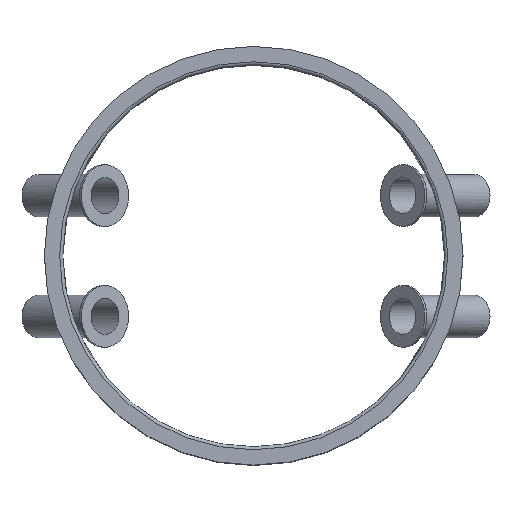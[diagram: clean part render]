
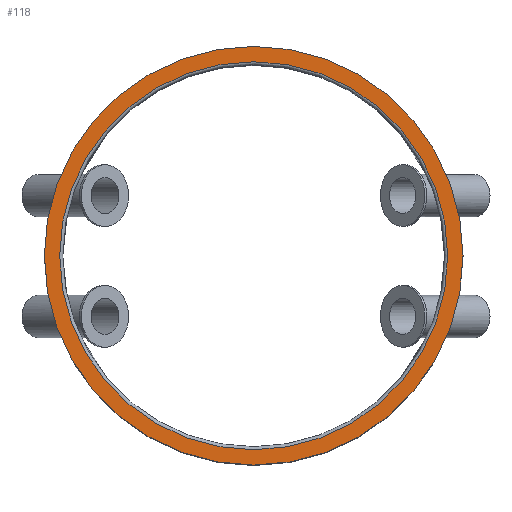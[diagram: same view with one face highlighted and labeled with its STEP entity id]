
A CAD part, top view. The second image highlights one B-rep face of the part: STEP entity #118.
In plain terms, the highlighted planar face has unit normal (0, 0, 1).
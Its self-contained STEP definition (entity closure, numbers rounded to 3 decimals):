
#118 = ADVANCED_FACE( '', ( #275, #276 ), #277, .F. );
#275 = FACE_BOUND( '', #442, .T. );
#276 = FACE_OUTER_BOUND( '', #443, .T. );
#277 = PLANE( '', #444 );
#442 = EDGE_LOOP( '', ( #659 ) );
#443 = EDGE_LOOP( '', ( #660 ) );
#444 = AXIS2_PLACEMENT_3D( '', #661, #662, #663 );
#659 = ORIENTED_EDGE( '', *, *, #756, .T. );
#660 = ORIENTED_EDGE( '', *, *, #750, .F. );
#661 = CARTESIAN_POINT( '', ( 50., 0., 1196.37 ) );
#662 = DIRECTION( '', ( 0., 0., -1. ) );
#663 = DIRECTION( '', ( -1., 0., 0. ) );
#750 = EDGE_CURVE( '', #850, #850, #851, .T. );
#756 = EDGE_CURVE( '', #860, #860, #861, .T. );
#850 = VERTEX_POINT( '', #1654 );
#851 = CIRCLE( '', #1655, 866.2 );
#860 = VERTEX_POINT( '', #1823 );
#861 = CIRCLE( '', #1824, 802.7 );
#1654 = CARTESIAN_POINT( '', ( 50., -866.2, 1196.37 ) );
#1655 = AXIS2_PLACEMENT_3D( '', #2444, #2445, #2446 );
#1823 = CARTESIAN_POINT( '', ( -752.7, 0., 1196.37 ) );
#1824 = AXIS2_PLACEMENT_3D( '', #2453, #2454, #2455 );
#2444 = CARTESIAN_POINT( '', ( 50., 0., 1196.37 ) );
#2445 = DIRECTION( '', ( 0., 0., -1. ) );
#2446 = DIRECTION( '', ( 0., -1., 0. ) );
#2453 = CARTESIAN_POINT( '', ( 50., 0., 1196.37 ) );
#2454 = DIRECTION( '', ( 0., 0., -1. ) );
#2455 = DIRECTION( '', ( -1., 0., 0. ) );
